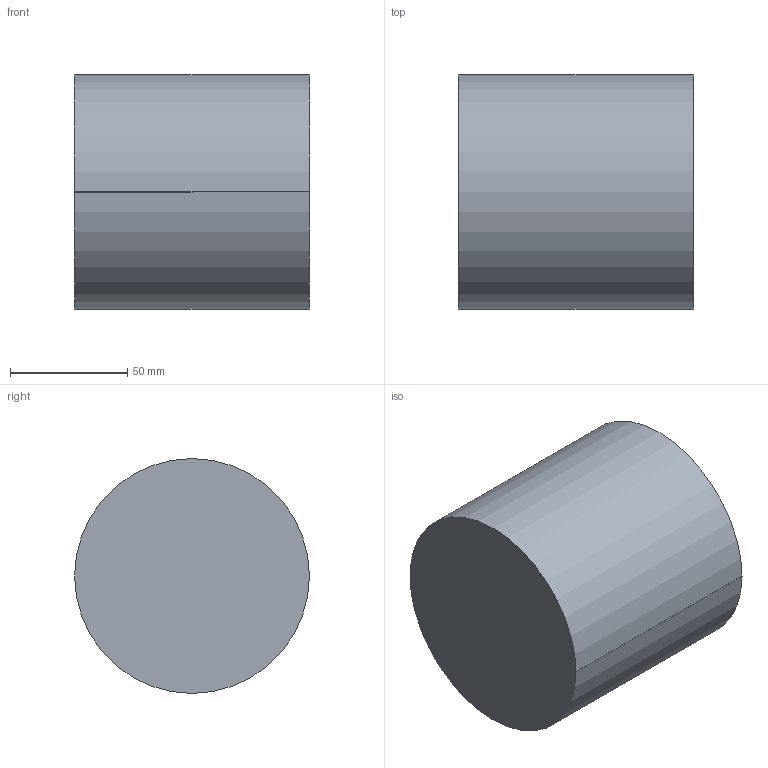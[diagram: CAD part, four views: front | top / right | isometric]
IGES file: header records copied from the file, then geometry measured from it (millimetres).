
Start section: START RECORD GO HERE.
Global section: file name: cylinder_CATIA.igs; native system: IBM CATIA IGES - CATIA Version 5 Release 14 ; preprocessor: CATIA Version 5 Release 14 ; author: Administrator; organization: VCAD-23B; date: 20050408.142812; units: millimetre
Bounding box: 100 x 100 x 100 mm (x, y, z)
Surface area: 47123.9 mm2 (no closed solid volume)
Topology: 0 solids, 0 shells, 4 faces, 12 edges, 12 vertices
Faces by surface type: revolution 2, plane 2
